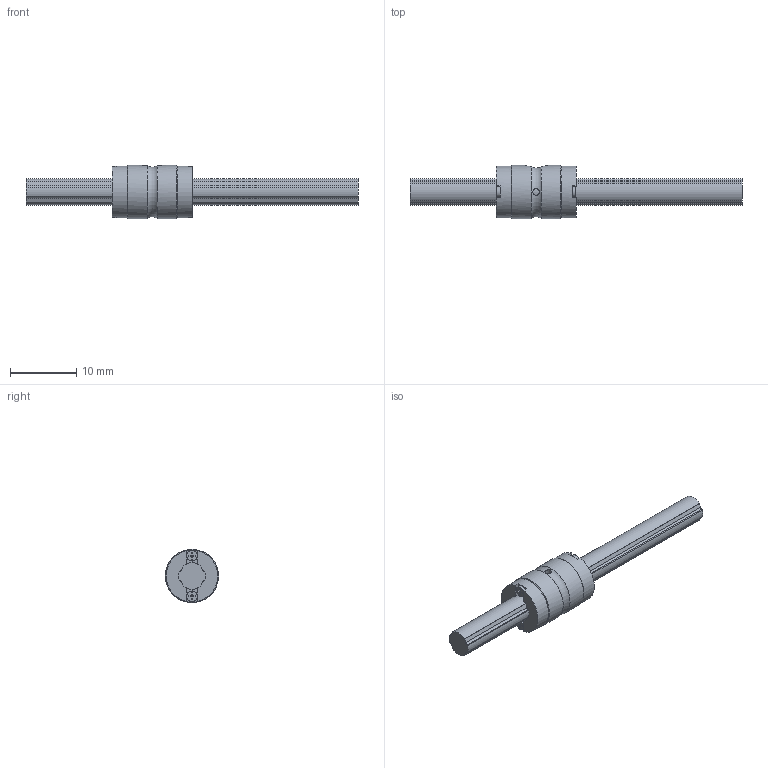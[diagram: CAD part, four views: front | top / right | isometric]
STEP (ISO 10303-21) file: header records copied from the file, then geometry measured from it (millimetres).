
FILE_DESCRIPTION(/* description */ ('STEP AP214'),/* implementation_level */ '2;1');
FILE_NAME(/* name */ 'LT4X+50L(00)',/* time_stamp */ '2024-09-05T13:54:03+02:00',/* author */ ('License CC BY-ND 4.0'),/* organization */ ('CADENAS'),/* preprocessor_version */ 'ST-DEVELOPER v19.3',/* originating_system */ 'PARTsolutions',/* authorisation */ ' ');
FILE_SCHEMA (('AUTOMOTIVE_DESIGN {1 0 10303 214 3 1 1}'));
Length unit declared in the file: millimetre
Products named in the file (3): LT4X+50L(00); 1LT4X 50Shaft; 1LT4X Cylindar
Assembly tree (2 placements, depth 2):
  LT4X+50L(00)
    1LT4X 50Shaft
    1LT4X Cylindar
Bounding box: 50 x 8 x 8 mm (x, y, z)
Volume: 1034.1 mm3; surface area: 1207.9 mm2
Topology: 2 solids, 2 shells, 128 faces, 355 edges, 236 vertices
Faces by surface type: plane 82, cylinder 42, cone 3, torus 1
Full cylindrical faces by diameter (mm): 1 x2, 1.6 x4, 7.8 x2, 8 x2
Entity records: 4095 total; most frequent: CARTESIAN_POINT 754, DIRECTION 682, ORIENTED_EDGE 668, EDGE_CURVE 334, LINE 232, VECTOR 232, VERTEX_POINT 229, AXIS2_PLACEMENT_3D 225
